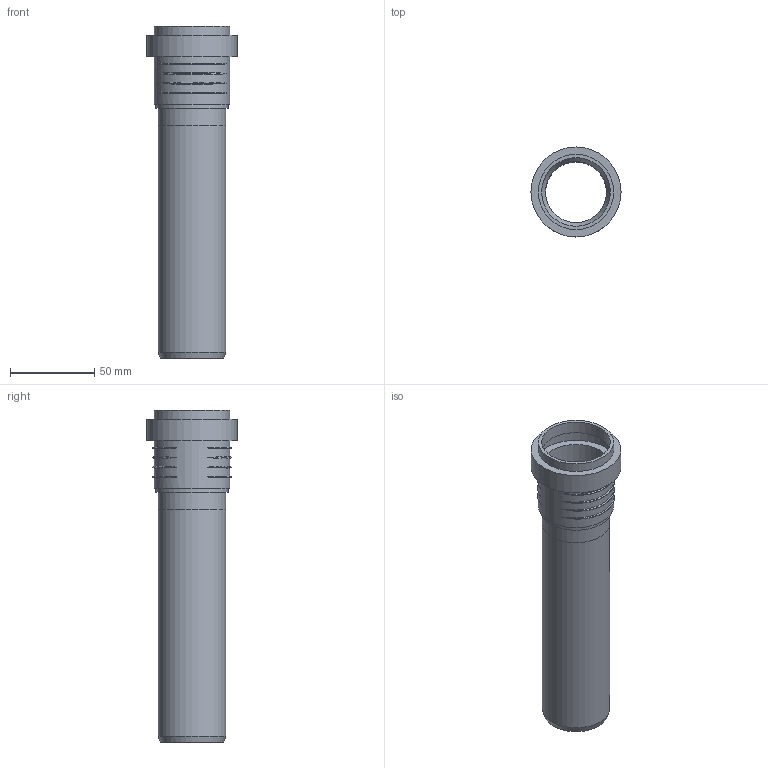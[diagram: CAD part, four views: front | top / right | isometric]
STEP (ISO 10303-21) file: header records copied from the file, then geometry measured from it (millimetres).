
FILE_DESCRIPTION(/* description */ (''),/* implementation_level */ '2;1');
FILE_NAME(/* name */ 'Z:\Geberit\Export\NewStep\390100.stp',/* time_stamp */ '2014-04-02T08:08:30+02:00',/* author */ ('ML'),/* organization */ (''),/* preprocessor_version */ 'ST-DEVELOPER v15.2',/* originating_system */ 'Autodesk Inventor 2014',/* authorisation */ '');
FILE_SCHEMA (('AUTOMOTIVE_DESIGN { 1 0 10303 214 3 1 1 }'));
Length unit declared in the file: millimetre
Products named in the file (3): 861410; 861581ohne; 390100
Bounding box: 53.5 x 53.5 x 197.3 mm (x, y, z)
Volume: 54549.1 mm3; surface area: 55821.2 mm2
Topology: 2 solids, 2 shells, 47 faces, 104 edges, 71 vertices
Faces by surface type: torus 24, cylinder 11, plane 10, cone 2
Full cylindrical faces by diameter (mm): 36.15 x2, 40.15 x2, 40.8 x2, 42.8 x1, 44.8 x2, 49.5 x1, 53.5 x1
Entity records: 2003 total; most frequent: CARTESIAN_POINT 962, DIRECTION 182, ORIENTED_EDGE 174, AXIS2_PLACEMENT_3D 91, EDGE_CURVE 87, EDGE_LOOP 78, VERTEX_POINT 71, STYLED_ITEM 49
